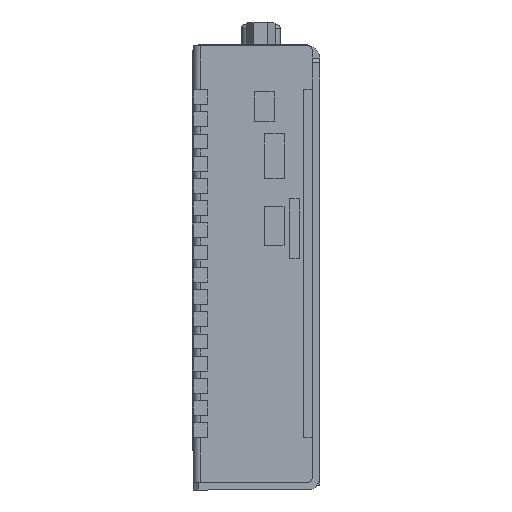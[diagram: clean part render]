
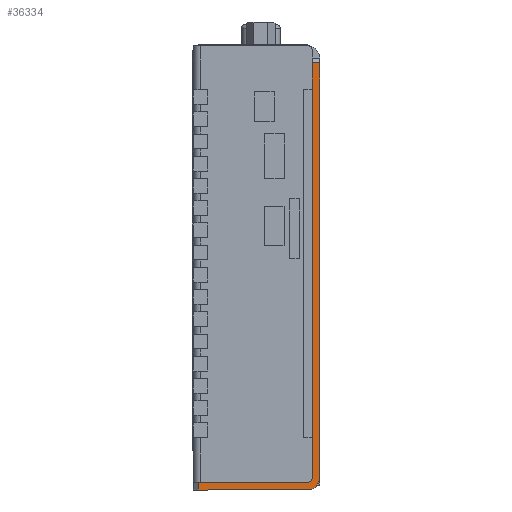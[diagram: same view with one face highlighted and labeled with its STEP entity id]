
A CAD part, left-side view. The second image highlights one B-rep face of the part: STEP entity #36334.
In plain terms, the highlighted planar face has unit normal (-1, 0, 0).
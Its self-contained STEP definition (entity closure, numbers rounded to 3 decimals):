
#1287 = VERTEX_POINT ( 'NONE', #32952 ) ;
#1726 = ORIENTED_EDGE ( 'NONE', *, *, #15559, .T. ) ;
#1965 = DIRECTION ( 'NONE',  ( 1., 0., 0. ) ) ;
#2172 = ORIENTED_EDGE ( 'NONE', *, *, #13133, .F. ) ;
#2976 = EDGE_CURVE ( 'NONE', #36105, #28681, #23798, .T. ) ;
#4726 = DIRECTION ( 'NONE',  ( 1., 0., 0. ) ) ;
#4784 = DIRECTION ( 'NONE',  ( 0., 0., -1. ) ) ;
#4787 = CARTESIAN_POINT ( 'NONE',  ( -71., 1., -41.25 ) ) ;
#4831 = PLANE ( 'NONE',  #12366 ) ;
#4846 = VECTOR ( 'NONE', #30863, 1000. ) ;
#4851 = CARTESIAN_POINT ( 'NONE',  ( -71., 0., -41.25 ) ) ;
#6188 = ORIENTED_EDGE ( 'NONE', *, *, #8686, .T. ) ;
#7432 = DIRECTION ( 'NONE',  ( 0., 0., 1. ) ) ;
#8044 = EDGE_CURVE ( 'NONE', #9713, #1287, #24762, .T. ) ;
#8096 = CARTESIAN_POINT ( 'NONE',  ( -71., 0., 43.75 ) ) ;
#8686 = EDGE_CURVE ( 'NONE', #15236, #9591, #19001, .T. ) ;
#9591 = VERTEX_POINT ( 'NONE', #25120 ) ;
#9713 = VERTEX_POINT ( 'NONE', #14169 ) ;
#10480 = DIRECTION ( 'NONE',  ( 0., 0., 1. ) ) ;
#11074 = VECTOR ( 'NONE', #17973, 1000. ) ;
#11497 = VECTOR ( 'NONE', #15361, 1000. ) ;
#11576 = VECTOR ( 'NONE', #25473, 1000. ) ;
#12143 = ORIENTED_EDGE ( 'NONE', *, *, #8044, .T. ) ;
#12210 = CARTESIAN_POINT ( 'NONE',  ( -71., -1.5, -43.75 ) ) ;
#12366 = AXIS2_PLACEMENT_3D ( 'NONE', #29210, #15187, #10480 ) ;
#12808 = DIRECTION ( 'NONE',  ( 0., 0., 1. ) ) ;
#13133 = EDGE_CURVE ( 'NONE', #36105, #33212, #19076, .T. ) ;
#13652 = ORIENTED_EDGE ( 'NONE', *, *, #28094, .F. ) ;
#14169 = CARTESIAN_POINT ( 'NONE',  ( -71., 23.1, -43.75 ) ) ;
#15187 = DIRECTION ( 'NONE',  ( -1., 0., 0. ) ) ;
#15236 = VERTEX_POINT ( 'NONE', #24617 ) ;
#15361 = DIRECTION ( 'NONE',  ( 0., 1., 0. ) ) ;
#15420 = DIRECTION ( 'NONE',  ( 0., 0., -1. ) ) ;
#15484 = LINE ( 'NONE', #29688, #20298 ) ;
#15507 = ORIENTED_EDGE ( 'NONE', *, *, #30068, .T. ) ;
#15559 = EDGE_CURVE ( 'NONE', #28681, #23138, #35715, .T. ) ;
#16277 = EDGE_LOOP ( 'NONE', ( #12143, #13652, #2172, #34638, #1726, #15507, #6188, #33476 ) ) ;
#16575 = CIRCLE ( 'NONE', #32731, 1. ) ;
#17973 = DIRECTION ( 'NONE',  ( 0., -1., 0. ) ) ;
#18214 = CARTESIAN_POINT ( 'NONE',  ( -71., 0., 42.75 ) ) ;
#19001 = LINE ( 'NONE', #23489, #11497 ) ;
#19076 = LINE ( 'NONE', #28428, #11576 ) ;
#20173 = CIRCLE ( 'NONE', #30519, 2.5 ) ;
#20298 = VECTOR ( 'NONE', #15420, 1000. ) ;
#21816 = EDGE_CURVE ( 'NONE', #9591, #9713, #15484, .T. ) ;
#23138 = VERTEX_POINT ( 'NONE', #4851 ) ;
#23489 = CARTESIAN_POINT ( 'NONE',  ( -71., -1.5, -42.25 ) ) ;
#23798 = LINE ( 'NONE', #27896, #4846 ) ;
#24617 = CARTESIAN_POINT ( 'NONE',  ( -71., 1., -42.25 ) ) ;
#24762 = LINE ( 'NONE', #12210, #11074 ) ;
#25120 = CARTESIAN_POINT ( 'NONE',  ( -71., 23.1, -42.25 ) ) ;
#25473 = DIRECTION ( 'NONE',  ( 0., 0., -1. ) ) ;
#27896 = CARTESIAN_POINT ( 'NONE',  ( -71., -1.5, 42.75 ) ) ;
#27986 = CARTESIAN_POINT ( 'NONE',  ( -71., -1.5, 42.75 ) ) ;
#28094 = EDGE_CURVE ( 'NONE', #33212, #1287, #20173, .T. ) ;
#28198 = VECTOR ( 'NONE', #4784, 1000. ) ;
#28428 = CARTESIAN_POINT ( 'NONE',  ( -71., -1.5, 0. ) ) ;
#28681 = VERTEX_POINT ( 'NONE', #18214 ) ;
#29210 = CARTESIAN_POINT ( 'NONE',  ( -71., -1.5, 43.75 ) ) ;
#29688 = CARTESIAN_POINT ( 'NONE',  ( -71., 23.1, 43.75 ) ) ;
#30068 = EDGE_CURVE ( 'NONE', #23138, #15236, #16575, .T. ) ;
#30075 = FACE_OUTER_BOUND ( 'NONE', #16277, .T. ) ;
#30519 = AXIS2_PLACEMENT_3D ( 'NONE', #4787, #1965, #12808 ) ;
#30863 = DIRECTION ( 'NONE',  ( 0., 1., 0. ) ) ;
#32731 = AXIS2_PLACEMENT_3D ( 'NONE', #35887, #4726, #7432 ) ;
#32952 = CARTESIAN_POINT ( 'NONE',  ( -71., 1., -43.75 ) ) ;
#33212 = VERTEX_POINT ( 'NONE', #36450 ) ;
#33476 = ORIENTED_EDGE ( 'NONE', *, *, #21816, .T. ) ;
#34638 = ORIENTED_EDGE ( 'NONE', *, *, #2976, .T. ) ;
#35715 = LINE ( 'NONE', #8096, #28198 ) ;
#35887 = CARTESIAN_POINT ( 'NONE',  ( -71., 1., -41.25 ) ) ;
#36105 = VERTEX_POINT ( 'NONE', #27986 ) ;
#36334 = ADVANCED_FACE ( 'NONE', ( #30075 ), #4831, .T. ) ;
#36450 = CARTESIAN_POINT ( 'NONE',  ( -71., -1.5, -41.25 ) ) ;
